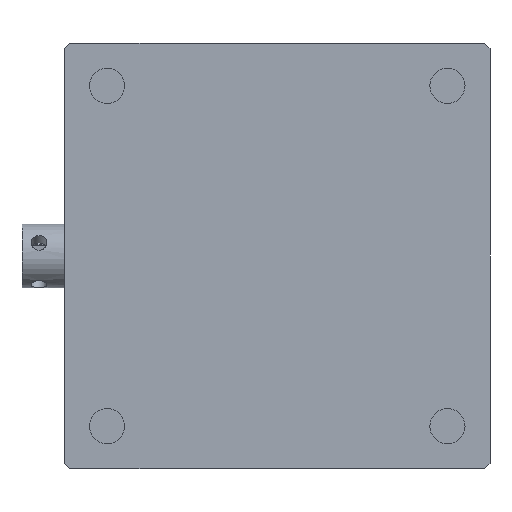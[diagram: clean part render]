
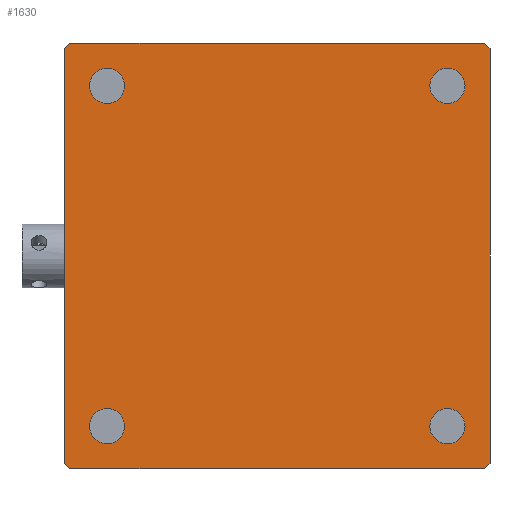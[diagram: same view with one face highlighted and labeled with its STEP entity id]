
A CAD part, front view. The second image highlights one B-rep face of the part: STEP entity #1630.
In plain terms, the highlighted planar face has unit normal (0, -1, 0).
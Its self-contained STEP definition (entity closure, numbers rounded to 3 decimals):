
#38 = CIRCLE ( 'NONE', #1239, 1.65 ) ;
#84 = EDGE_CURVE ( 'NONE', #753, #753, #2471, .T. ) ;
#235 = EDGE_CURVE ( 'NONE', #818, #2285, #1584, .T. ) ;
#239 = AXIS2_PLACEMENT_3D ( 'NONE', #3624, #3883, #256 ) ;
#256 = DIRECTION ( 'NONE',  ( 0., 0., 1. ) ) ;
#279 = ORIENTED_EDGE ( 'NONE', *, *, #84, .T. ) ;
#281 = CARTESIAN_POINT ( 'NONE',  ( 4., 0., -16. ) ) ;
#283 = EDGE_CURVE ( 'NONE', #3457, #3768, #1936, .T. ) ;
#366 = ORIENTED_EDGE ( 'NONE', *, *, #1180, .T. ) ;
#384 = ORIENTED_EDGE ( 'NONE', *, *, #235, .T. ) ;
#420 = CARTESIAN_POINT ( 'NONE',  ( 40., 0., 19.5 ) ) ;
#444 = EDGE_CURVE ( 'NONE', #3768, #500, #3697, .T. ) ;
#445 = ORIENTED_EDGE ( 'NONE', *, *, #283, .T. ) ;
#490 = FACE_BOUND ( 'NONE', #2193, .T. ) ;
#497 = LINE ( 'NONE', #2982, #1276 ) ;
#500 = VERTEX_POINT ( 'NONE', #3376 ) ;
#636 = CARTESIAN_POINT ( 'NONE',  ( 40., 0., -20. ) ) ;
#642 = ORIENTED_EDGE ( 'NONE', *, *, #1857, .T. ) ;
#647 = EDGE_CURVE ( 'NONE', #2872, #2872, #38, .T. ) ;
#691 = VERTEX_POINT ( 'NONE', #1017 ) ;
#713 = DIRECTION ( 'NONE',  ( -0.707, 0., 0.707 ) ) ;
#739 = ORIENTED_EDGE ( 'NONE', *, *, #1708, .F. ) ;
#753 = VERTEX_POINT ( 'NONE', #1144 ) ;
#818 = VERTEX_POINT ( 'NONE', #2986 ) ;
#823 = VECTOR ( 'NONE', #2139, 1000. ) ;
#836 = EDGE_LOOP ( 'NONE', ( #1370 ) ) ;
#1017 = CARTESIAN_POINT ( 'NONE',  ( 39.5, 0., -20. ) ) ;
#1033 = CARTESIAN_POINT ( 'NONE',  ( 4., 0., 16. ) ) ;
#1039 = CARTESIAN_POINT ( 'NONE',  ( 0., 0., 20. ) ) ;
#1144 = CARTESIAN_POINT ( 'NONE',  ( 36., 0., -14.35 ) ) ;
#1180 = EDGE_CURVE ( 'NONE', #1958, #1958, #3059, .T. ) ;
#1221 = EDGE_CURVE ( 'NONE', #2285, #2960, #497, .T. ) ;
#1239 = AXIS2_PLACEMENT_3D ( 'NONE', #1033, #2247, #3529 ) ;
#1276 = VECTOR ( 'NONE', #2003, 1000. ) ;
#1351 = EDGE_LOOP ( 'NONE', ( #1663, #642, #384, #3670, #3168, #3933, #739, #445 ) ) ;
#1370 = ORIENTED_EDGE ( 'NONE', *, *, #2869, .T. ) ;
#1445 = FACE_BOUND ( 'NONE', #836, .T. ) ;
#1447 = VERTEX_POINT ( 'NONE', #1660 ) ;
#1481 = CARTESIAN_POINT ( 'NONE',  ( 0.5, 0., -20. ) ) ;
#1529 = DIRECTION ( 'NONE',  ( 0., 1., 0. ) ) ;
#1563 = VECTOR ( 'NONE', #2603, 1000. ) ;
#1577 = CARTESIAN_POINT ( 'NONE',  ( 40., 0., -19.5 ) ) ;
#1584 = LINE ( 'NONE', #1039, #2233 ) ;
#1630 = ADVANCED_FACE ( 'NONE', ( #490, #3238, #1445, #1739, #2641 ), #1723, .F. ) ;
#1660 = CARTESIAN_POINT ( 'NONE',  ( 40., 0., -19.5 ) ) ;
#1663 = ORIENTED_EDGE ( 'NONE', *, *, #444, .T. ) ;
#1701 = CARTESIAN_POINT ( 'NONE',  ( 40., 0., 20. ) ) ;
#1708 = EDGE_CURVE ( 'NONE', #3457, #1447, #2477, .T. ) ;
#1723 = PLANE ( 'NONE',  #3338 ) ;
#1739 = FACE_BOUND ( 'NONE', #3639, .T. ) ;
#1857 = EDGE_CURVE ( 'NONE', #500, #818, #2259, .T. ) ;
#1859 = CARTESIAN_POINT ( 'NONE',  ( 0., 0., -19.5 ) ) ;
#1872 = CARTESIAN_POINT ( 'NONE',  ( 40., 0., 20. ) ) ;
#1896 = DIRECTION ( 'NONE',  ( -1., 0., 0. ) ) ;
#1898 = LINE ( 'NONE', #1577, #3028 ) ;
#1936 = LINE ( 'NONE', #3443, #3648 ) ;
#1958 = VERTEX_POINT ( 'NONE', #3195 ) ;
#2003 = DIRECTION ( 'NONE',  ( 0.707, 0., -0.707 ) ) ;
#2054 = VERTEX_POINT ( 'NONE', #2394 ) ;
#2063 = DIRECTION ( 'NONE',  ( 0., 0., 1. ) ) ;
#2139 = DIRECTION ( 'NONE',  ( -1., 0., 0. ) ) ;
#2193 = EDGE_LOOP ( 'NONE', ( #366 ) ) ;
#2233 = VECTOR ( 'NONE', #2811, 1000. ) ;
#2247 = DIRECTION ( 'NONE',  ( 0., 1., 0. ) ) ;
#2259 = LINE ( 'NONE', #3566, #1563 ) ;
#2266 = EDGE_CURVE ( 'NONE', #691, #2960, #3379, .T. ) ;
#2285 = VERTEX_POINT ( 'NONE', #1859 ) ;
#2351 = ORIENTED_EDGE ( 'NONE', *, *, #647, .T. ) ;
#2357 = AXIS2_PLACEMENT_3D ( 'NONE', #281, #3931, #2063 ) ;
#2383 = CARTESIAN_POINT ( 'NONE',  ( 39.5, 0., 20. ) ) ;
#2394 = CARTESIAN_POINT ( 'NONE',  ( 36., 0., 17.65 ) ) ;
#2471 = CIRCLE ( 'NONE', #3172, 1.65 ) ;
#2477 = LINE ( 'NONE', #3685, #3722 ) ;
#2603 = DIRECTION ( 'NONE',  ( -0.707, 0., -0.707 ) ) ;
#2641 = FACE_OUTER_BOUND ( 'NONE', #1351, .T. ) ;
#2740 = DIRECTION ( 'NONE',  ( 0., 0., 1. ) ) ;
#2811 = DIRECTION ( 'NONE',  ( 0., 0., -1. ) ) ;
#2869 = EDGE_CURVE ( 'NONE', #2054, #2054, #3085, .T. ) ;
#2872 = VERTEX_POINT ( 'NONE', #3563 ) ;
#2883 = EDGE_LOOP ( 'NONE', ( #279 ) ) ;
#2918 = DIRECTION ( 'NONE',  ( 0., 0., 1. ) ) ;
#2960 = VERTEX_POINT ( 'NONE', #1481 ) ;
#2982 = CARTESIAN_POINT ( 'NONE',  ( 0.5, 0., -20. ) ) ;
#2986 = CARTESIAN_POINT ( 'NONE',  ( 0., 0., 19.5 ) ) ;
#3028 = VECTOR ( 'NONE', #3438, 1000. ) ;
#3057 = CARTESIAN_POINT ( 'NONE',  ( 36., 0., -16. ) ) ;
#3059 = CIRCLE ( 'NONE', #2357, 1.65 ) ;
#3066 = EDGE_CURVE ( 'NONE', #691, #1447, #1898, .T. ) ;
#3085 = CIRCLE ( 'NONE', #239, 1.65 ) ;
#3168 = ORIENTED_EDGE ( 'NONE', *, *, #2266, .F. ) ;
#3172 = AXIS2_PLACEMENT_3D ( 'NONE', #3057, #1529, #2740 ) ;
#3195 = CARTESIAN_POINT ( 'NONE',  ( 4., 0., -14.35 ) ) ;
#3226 = VECTOR ( 'NONE', #1896, 1000. ) ;
#3238 = FACE_BOUND ( 'NONE', #2883, .T. ) ;
#3338 = AXIS2_PLACEMENT_3D ( 'NONE', #1701, #3582, #2918 ) ;
#3376 = CARTESIAN_POINT ( 'NONE',  ( 0.5, 0., 20. ) ) ;
#3379 = LINE ( 'NONE', #636, #823 ) ;
#3383 = DIRECTION ( 'NONE',  ( 0., 0., -1. ) ) ;
#3438 = DIRECTION ( 'NONE',  ( 0.707, 0., 0.707 ) ) ;
#3443 = CARTESIAN_POINT ( 'NONE',  ( 40., 0., 19.5 ) ) ;
#3457 = VERTEX_POINT ( 'NONE', #420 ) ;
#3529 = DIRECTION ( 'NONE',  ( 0., 0., 1. ) ) ;
#3563 = CARTESIAN_POINT ( 'NONE',  ( 4., 0., 17.65 ) ) ;
#3566 = CARTESIAN_POINT ( 'NONE',  ( 0.5, 0., 20. ) ) ;
#3582 = DIRECTION ( 'NONE',  ( 0., 1., 0. ) ) ;
#3624 = CARTESIAN_POINT ( 'NONE',  ( 36., 0., 16. ) ) ;
#3639 = EDGE_LOOP ( 'NONE', ( #2351 ) ) ;
#3648 = VECTOR ( 'NONE', #713, 1000. ) ;
#3670 = ORIENTED_EDGE ( 'NONE', *, *, #1221, .T. ) ;
#3685 = CARTESIAN_POINT ( 'NONE',  ( 40., 0., 20. ) ) ;
#3697 = LINE ( 'NONE', #1872, #3226 ) ;
#3722 = VECTOR ( 'NONE', #3383, 1000. ) ;
#3768 = VERTEX_POINT ( 'NONE', #2383 ) ;
#3883 = DIRECTION ( 'NONE',  ( 0., 1., 0. ) ) ;
#3931 = DIRECTION ( 'NONE',  ( 0., 1., 0. ) ) ;
#3933 = ORIENTED_EDGE ( 'NONE', *, *, #3066, .T. ) ;
